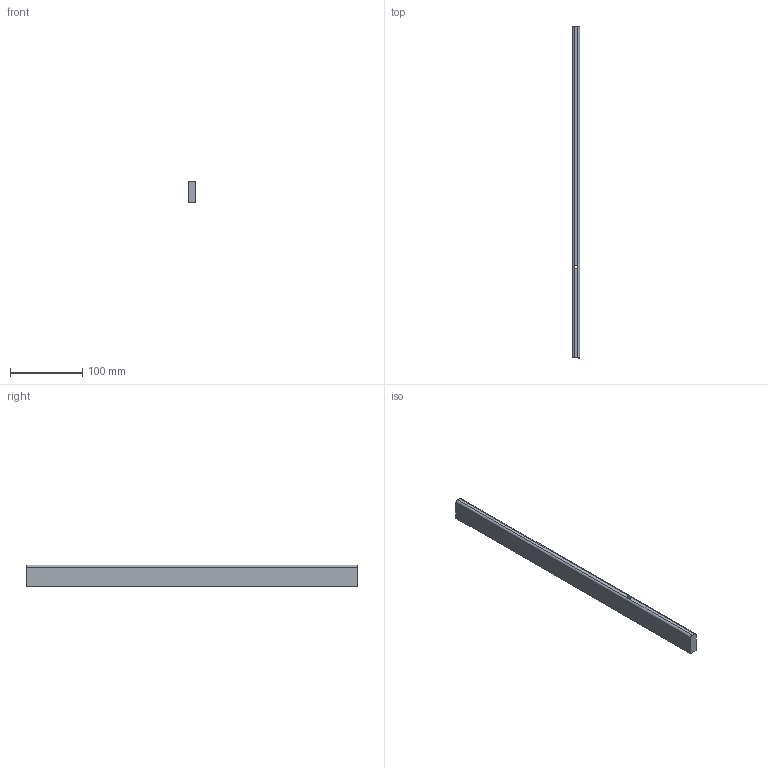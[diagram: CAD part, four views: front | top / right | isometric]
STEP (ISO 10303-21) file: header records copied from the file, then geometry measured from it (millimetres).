
FILE_DESCRIPTION (( 'STEP AP214' ), '1' );
FILE_NAME ('_Seitenreling_SP60702400_RL460.step', '2010-09-06T14:52:09', ( 'grass' ), ( '' ), 'SwSTEP 2.0', 'SolidWorks 2010', '' );
FILE_SCHEMA (( 'AUTOMOTIVE_DESIGN' ));
Length unit declared in the file: millimetre
Products named in the file (1): _Seitenreling_SP60702400_RL460
Bounding box: 10.5 x 460 x 30 mm (x, y, z)
Volume: 142204.1 mm3; surface area: 37236.1 mm2
Topology: 1 solids, 1 shells, 14 faces, 34 edges, 22 vertices
Faces by surface type: plane 8, cylinder 6
Entity records: 454 total; most frequent: DIRECTION 78, CARTESIAN_POINT 71, ORIENTED_EDGE 68, EDGE_CURVE 34, AXIS2_PLACEMENT_3D 29, VERTEX_POINT 22, LINE 20, VECTOR 20
